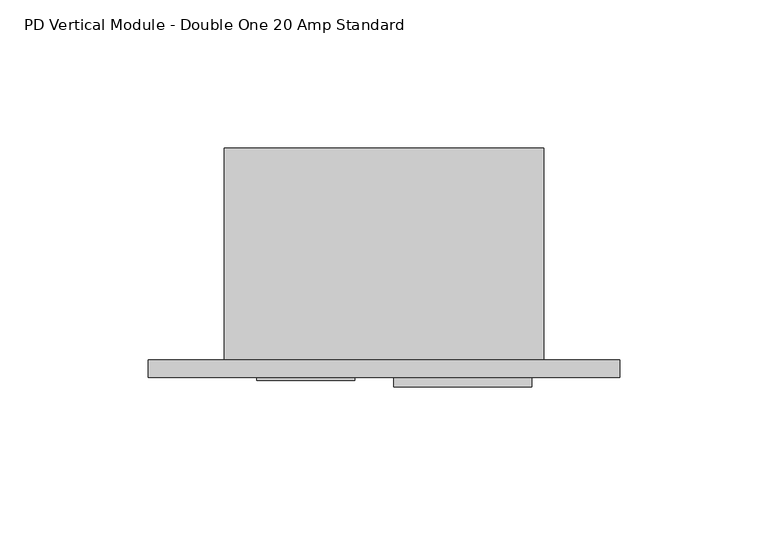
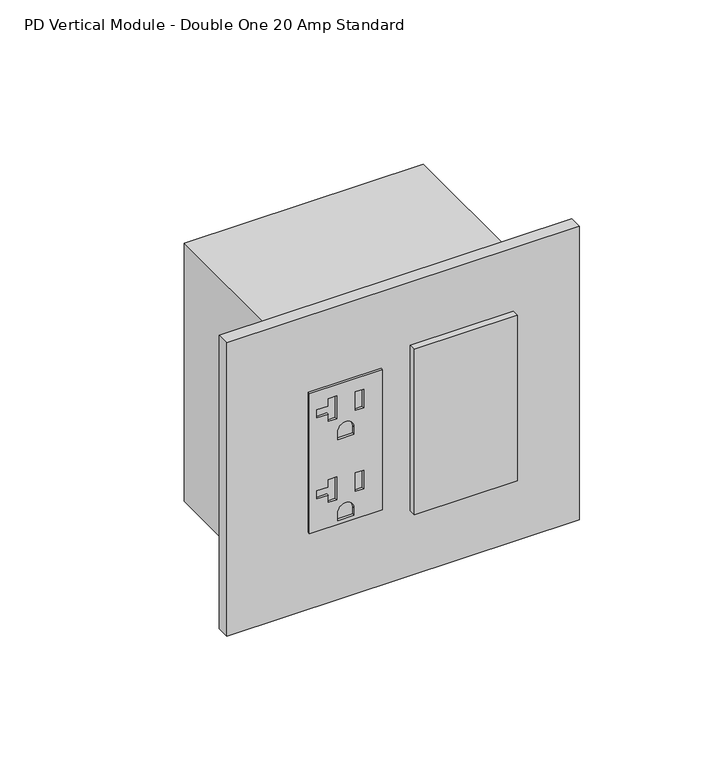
"""IFC4 building model written with IfcOpenShell, lengths in millimetres: proxy geometry, Electrical-Teknion-EPDMD_Vertical_Power_Data_Double-R2019 : PD Vertical Module - Double One 20 Amp Standard."""

from ifc_helpers import new_model, si_unit, point, frame, frame_2d, origin, place, context, project, spatial, polyline, circle_curve, trimmed, segment, composite_curve, outline, extrude, source, transform, mapped, element, save


def pd_vertical_module_double_one_20_amp_standard_6d0cff1c(model_context):
    return source(origin(), model_context, "Body", "SweptSolid", [
        extrude(outline(polyline([(490.6772, 44.0944), (490.6772, 11.0998), (423.7228, 11.0998), (423.7228, 44.0944), (490.6772, 44.0944)]), holes=[polyline([(485.2924, 23.4442), (474.472, 23.4442), (474.472, 19.6088), (477.9518, 19.6088), (477.9518, 14.5034), (481.8126, 14.5034), (481.8126, 19.6088), (485.2924, 19.6088), (485.2924, 23.4442)]), polyline([(484.3145, 35.6108), (475.4499, 35.6108), (475.4499, 31.7754), (484.3145, 31.7754), (484.3145, 35.6108)]), composite_curve([segment(polyline([(464.2866, 31.2293), (464.2866, 23.9649), (467.9188, 23.9649)]), True, "CONTINUOUS"), segment(trimmed(circle_curve(frame_2d((467.9188, 27.5971)), 3.6322), [point((467.9188, 23.9649))], [point((467.9188, 31.2293))], True, "CARTESIAN"), True, "CONTINUOUS"), segment(polyline([(467.9188, 31.2293), (464.2866, 31.2293)]), True, "CONTINUOUS")], self_intersect=False), polyline([(446.5574, 23.4442), (435.737, 23.4442), (435.737, 19.6088), (439.2168, 19.6088), (439.2168, 14.5034), (443.0776, 14.5034), (443.0776, 19.6088), (446.5574, 19.6088), (446.5574, 23.4442)]), polyline([(445.5795, 35.6108), (436.7149, 35.6108), (436.7149, 31.7754), (445.5795, 31.7754), (445.5795, 35.6108)]), composite_curve([segment(polyline([(425.5516, 31.2293), (425.5516, 23.9649), (429.1838, 23.9649)]), True, "CONTINUOUS"), segment(trimmed(circle_curve(frame_2d((429.1838, 27.5971)), 3.6322), [point((429.1838, 23.9649))], [point((429.1838, 31.2293))], True, "CARTESIAN"), True, "CONTINUOUS"), segment(polyline([(429.1838, 31.2293), (425.5516, 31.2293)]), True, "CONTINUOUS")], self_intersect=False)]), frame((0.0, -6.9294746, 0.0), z_axis=(0.0, 1.0, 0.0), x_axis=(0.0, 0.0, 1.0)), (0.0, 0.0, 1.0), 1.0366746),
        extrude(outline(polyline([(57.3278, -5.8928), (103.8606, -5.8928), (103.8606, -9.0678), (57.3278, -9.0678), (57.3278, -5.8928)])), frame((0.0, 0.0, 417.9026971), z_axis=(0.0, 0.0, 1.0), x_axis=(1.0, 0.0, 0.0)), (0.0, 0.0, 1.0), 79.0448),
        extrude(outline(polyline([(-25.6794, 0.0), (133.7056, 0.0), (133.7056, -5.8928), (-25.6794, -5.8928), (-25.6794, 0.0)])), frame((0.0, 0.0, 386.9302229), z_axis=(0.0, 0.0, 1.0), x_axis=(1.0, 0.0, 0.0)), (0.0, 0.0, 1.0), 140.3604),
        extrude(outline(polyline([(108.0262, 0.0), (0.0, 0.0), (0.0, 71.7296), (108.0262, 71.7296), (108.0262, 0.0)])), frame((0.0, 0.0, 395.3630229), z_axis=(0.0, 0.0, 1.0), x_axis=(1.0, 0.0, 0.0)), (0.0, 0.0, 1.0), 123.4948),
    ])


if __name__ == "__main__":
    model = new_model("IFC4")
    model_context = context("Model", 3, world=origin())
    ifc_project = project(units=[si_unit("LENGTHUNIT", "METRE", prefix="MILLI")], contexts=[model_context])
    site = spatial("IfcSite", under=ifc_project)
    building = spatial("IfcBuilding", under=site)
    placement = place(None, origin())
    pd_vertical_module_double_one_20_amp_standard_shape = pd_vertical_module_double_one_20_amp_standard_6d0cff1c(model_context)
    element("IfcBuildingElementProxy", 1, Name="Electrical-Teknion-EPDMD_Vertical_Power_Data_Double-R2019 : PD Vertical Module - Double One 20 Amp Standard", ObjectType="Electrical-Teknion-EPDMD_Vertical_Power_Data_Double-R2019 : PD Vertical Module - Double One 20 Amp Standard", at=placement, inside=building, context=model_context, shape_type="MappedRepresentation", body=[
        mapped(pd_vertical_module_double_one_20_amp_standard_shape, transform((0.0, 0.0, 0.0), x_axis=(1.0, 0.0, 0.0), y_axis=(0.0, 1.0, 0.0), z_axis=(0.0, 0.0, 1.0))),
    ])
    save(model, "model.ifc")
